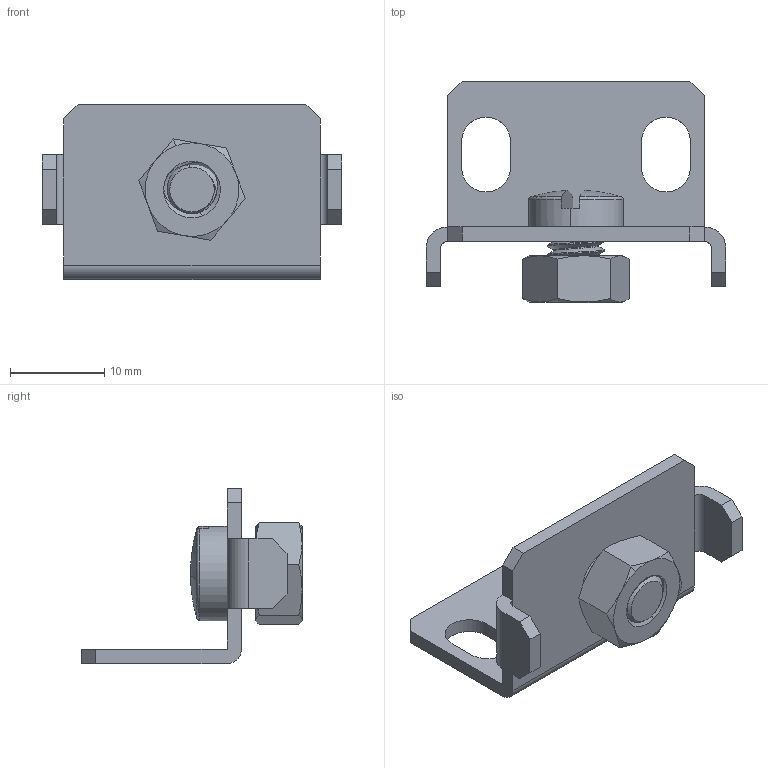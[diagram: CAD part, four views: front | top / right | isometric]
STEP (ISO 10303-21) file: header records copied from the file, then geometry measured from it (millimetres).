
FILE_DESCRIPTION (( 'STEP AP214' ), '1' );
FILE_NAME ('BL MOUNTING BRACKET_Default.stp', '2021-05-17T19:07:35', ( '' ), ( '' ), 'SwSTEP 2.0', 'SolidWorks 2018', '' );
FILE_SCHEMA (( 'AUTOMOTIVE_DESIGN' ));
Length unit declared in the file: inch
Products named in the file (4): HN-M6_90592A016; BL MOUNTING BRACKET_Default; CHM6x8_91460A312; 129-02-018
Assembly tree (3 placements, depth 2):
  BL MOUNTING BRACKET_Default
    129-02-018
    CHM6x8_91460A312
    HN-M6_90592A016
Bounding box: 31.75 x 23.42 x 18.54 mm (x, y, z)
Volume: 2086.9 mm3; surface area: 3023.2 mm2
Topology: 3 solids, 3 shells, 173 faces, 433 edges, 267 vertices
Faces by surface type: cylinder 76, plane 45, cone 42, sphere 4, bspline 4, torus 2
Entity records: 7329 total; most frequent: CARTESIAN_POINT 2802, ORIENTED_EDGE 866, DIRECTION 724, EDGE_CURVE 433, AXIS2_PLACEMENT_3D 268, VERTEX_POINT 267, VECTOR 188, LINE 188
